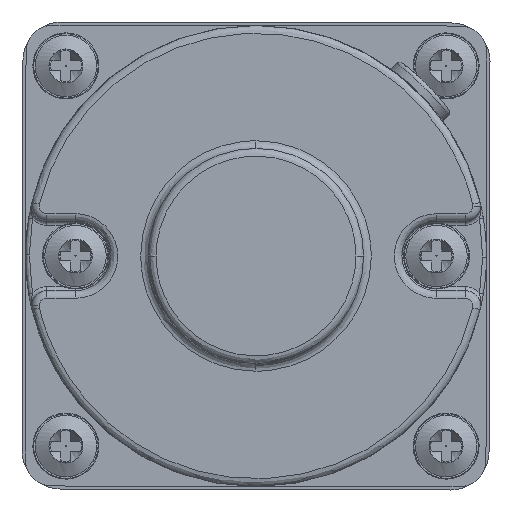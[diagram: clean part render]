
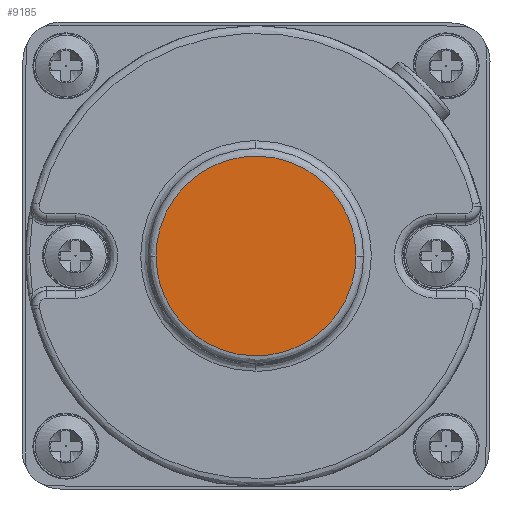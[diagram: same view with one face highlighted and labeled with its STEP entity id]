
A CAD part, front view. The second image highlights one B-rep face of the part: STEP entity #9185.
In plain terms, the highlighted planar face has unit normal (0, -1, 0).
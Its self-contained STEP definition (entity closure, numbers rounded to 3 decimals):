
#75 = VERTEX_POINT ( 'NONE', #578 ) ;
#163 = FACE_OUTER_BOUND ( 'NONE', #4757, .T. ) ;
#339 = ORIENTED_EDGE ( 'NONE', *, *, #11151, .F. ) ;
#549 = CARTESIAN_POINT ( 'NONE',  ( -13., 0., 26. ) ) ;
#578 = CARTESIAN_POINT ( 'NONE',  ( -13., 0., 0. ) ) ;
#679 = AXIS2_PLACEMENT_3D ( 'NONE', #8875, #1111, #2077 ) ;
#1111 = DIRECTION ( 'NONE',  ( 0., -1., 0. ) ) ;
#1215 =( BOUNDED_CURVE ( )  B_SPLINE_CURVE ( 3, ( #3316, #549, #2361, #7473 ),
 .UNSPECIFIED., .F., .T. ) 
 B_SPLINE_CURVE_WITH_KNOTS ( ( 4, 4 ),
 ( 0., 1. ),
 .UNSPECIFIED. ) 
 CURVE ( )  GEOMETRIC_REPRESENTATION_ITEM ( )  RATIONAL_B_SPLINE_CURVE ( ( 1., 0.333, 0.333, 1. ) ) 
 REPRESENTATION_ITEM ( '' )  );
#2022 = PLANE ( 'NONE',  #679 ) ;
#2077 = DIRECTION ( 'NONE',  ( 0., 0., -1. ) ) ;
#2160 = VERTEX_POINT ( 'NONE', #7521 ) ;
#2361 = CARTESIAN_POINT ( 'NONE',  ( 13., 0., 26. ) ) ;
#2403 = CARTESIAN_POINT ( 'NONE',  ( -13., 0., -26. ) ) ;
#2454 = CARTESIAN_POINT ( 'NONE',  ( -13., 0., 0. ) ) ;
#3316 = CARTESIAN_POINT ( 'NONE',  ( -13., 0., 0. ) ) ;
#3361 = CARTESIAN_POINT ( 'NONE',  ( 13., 0., 0. ) ) ;
#4324 =( BOUNDED_CURVE ( )  B_SPLINE_CURVE ( 3, ( #3361, #6886, #2403, #2454 ),
 .UNSPECIFIED., .F., .T. ) 
 B_SPLINE_CURVE_WITH_KNOTS ( ( 4, 4 ),
 ( 0., 1. ),
 .UNSPECIFIED. ) 
 CURVE ( )  GEOMETRIC_REPRESENTATION_ITEM ( )  RATIONAL_B_SPLINE_CURVE ( ( 1., 0.333, 0.333, 1. ) ) 
 REPRESENTATION_ITEM ( '' )  );
#4757 = EDGE_LOOP ( 'NONE', ( #339, #6557 ) ) ;
#6557 = ORIENTED_EDGE ( 'NONE', *, *, #8154, .F. ) ;
#6886 = CARTESIAN_POINT ( 'NONE',  ( 13., 0., -26. ) ) ;
#7473 = CARTESIAN_POINT ( 'NONE',  ( 13., 0., 0. ) ) ;
#7521 = CARTESIAN_POINT ( 'NONE',  ( 13., 0., 0. ) ) ;
#8154 = EDGE_CURVE ( 'NONE', #75, #2160, #1215, .T. ) ;
#8875 = CARTESIAN_POINT ( 'NONE',  ( 0., 0., 0. ) ) ;
#9185 = ADVANCED_FACE ( 'N', ( #163 ), #2022, .T. ) ;
#11151 = EDGE_CURVE ( 'NONE', #2160, #75, #4324, .T. ) ;
